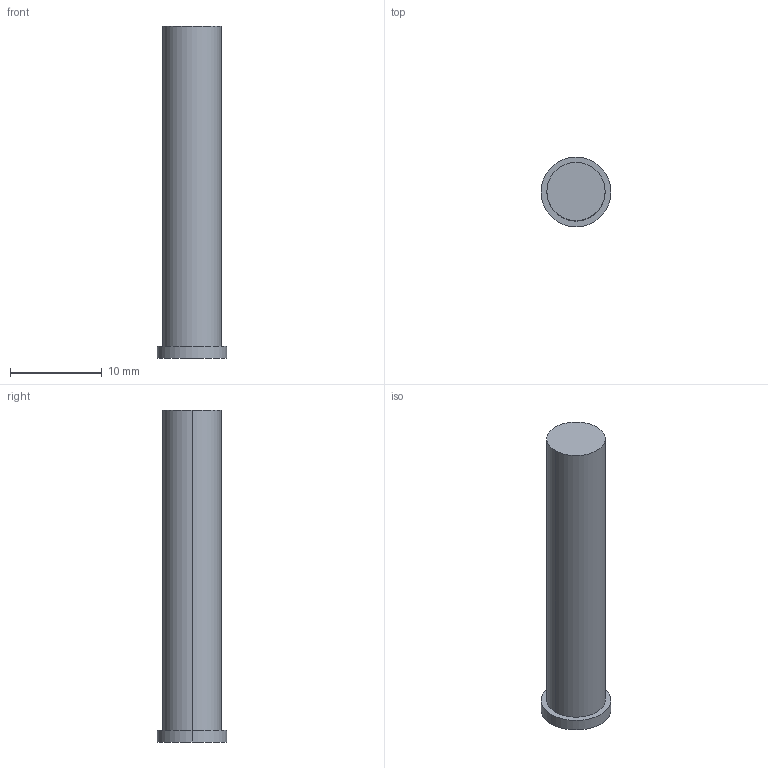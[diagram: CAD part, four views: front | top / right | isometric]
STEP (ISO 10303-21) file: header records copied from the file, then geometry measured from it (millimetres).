
FILE_DESCRIPTION (( 'STEP AP214' ), '1' );
FILE_NAME ('PUNCH FOR .25.STEP', '2020-05-25T15:57:41', ( '' ), ( '' ), 'SwSTEP 2.0', 'SolidWorks 2020', '' );
FILE_SCHEMA (( 'AUTOMOTIVE_DESIGN' ));
Length unit declared in the file: inch
Products named in the file (1): PUNCH FOR .25
Bounding box: 7.62 x 7.62 x 36.2 mm (x, y, z)
Volume: 1164 mm3; surface area: 818.3 mm2
Topology: 1 solids, 1 shells, 7 faces, 12 edges, 8 vertices
Faces by surface type: cylinder 4, plane 3
Entity records: 214 total; most frequent: DIRECTION 36, CARTESIAN_POINT 28, ORIENTED_EDGE 24, AXIS2_PLACEMENT_3D 16, EDGE_CURVE 12, VERTEX_POINT 8, EDGE_LOOP 8, CIRCLE 8
